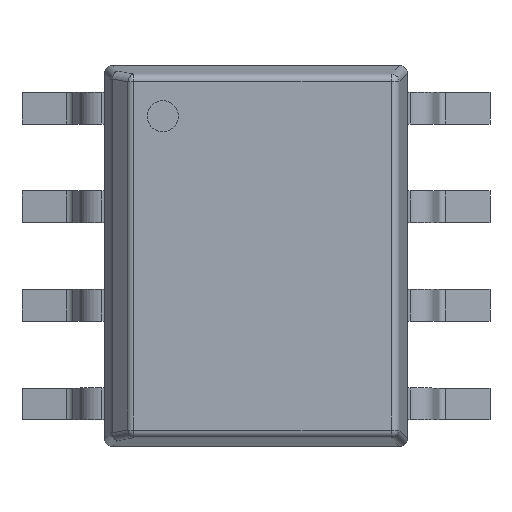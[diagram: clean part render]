
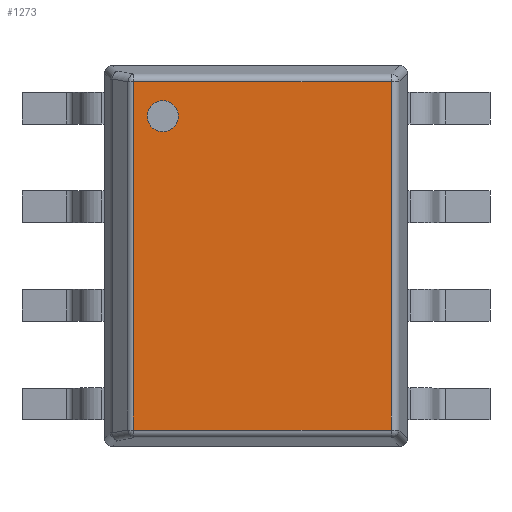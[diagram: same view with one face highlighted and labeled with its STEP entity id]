
A CAD part, top view. The second image highlights one B-rep face of the part: STEP entity #1273.
In plain terms, the highlighted planar face has unit normal (0, 0, 1) as drawn and (0, 1, 0) by its records, which use the part's own axes.
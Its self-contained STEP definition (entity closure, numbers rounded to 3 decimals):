
#60=FACE_BOUND('',#258,.T.);
#115=PLANE('',#1435);
#174=FACE_OUTER_BOUND('',#257,.T.);
#257=EDGE_LOOP('',(#982,#983,#984,#985));
#258=EDGE_LOOP('',(#986));
#351=LINE('',#2137,#458);
#352=LINE('',#2141,#459);
#353=LINE('',#2143,#460);
#354=LINE('',#2144,#461);
#458=VECTOR('',#1711,4.485);
#459=VECTOR('',#1716,3.321);
#460=VECTOR('',#1717,4.485);
#461=VECTOR('',#1718,3.321);
#528=CIRCLE('',#1368,0.2);
#576=VERTEX_POINT('',#1983);
#624=VERTEX_POINT('',#2132);
#625=VERTEX_POINT('',#2136);
#626=VERTEX_POINT('',#2140);
#627=VERTEX_POINT('',#2142);
#681=EDGE_CURVE('',#576,#576,#528,.T.);
#756=EDGE_CURVE('',#624,#625,#351,.T.);
#758=EDGE_CURVE('',#625,#626,#352,.T.);
#759=EDGE_CURVE('',#626,#627,#353,.T.);
#760=EDGE_CURVE('',#627,#624,#354,.T.);
#982=ORIENTED_EDGE('',*,*,#758,.T.);
#983=ORIENTED_EDGE('',*,*,#759,.T.);
#984=ORIENTED_EDGE('',*,*,#760,.T.);
#985=ORIENTED_EDGE('',*,*,#756,.T.);
#986=ORIENTED_EDGE('',*,*,#681,.T.);
#1273=ADVANCED_FACE('',(#174,#60),#115,.T.);
#1368=AXIS2_PLACEMENT_3D('',#1985,#1542,#1543);
#1435=AXIS2_PLACEMENT_3D('',#2139,#1714,#1715);
#1542=DIRECTION('center_axis',(0.,-1.,0.));
#1543=DIRECTION('ref_axis',(0.,0.,-1.));
#1711=DIRECTION('',(1.,0.,0.));
#1714=DIRECTION('center_axis',(0.,1.,0.));
#1715=DIRECTION('ref_axis',(1.,0.,0.));
#1716=DIRECTION('',(0.,0.,-1.));
#1717=DIRECTION('',(-1.,0.,0.));
#1718=DIRECTION('',(0.,0.,1.));
#1983=CARTESIAN_POINT('',(1.8,0.7,-1.));
#1985=CARTESIAN_POINT('Origin',(1.8,0.7,-1.2));
#2132=CARTESIAN_POINT('',(-2.243,0.7,1.743));
#2136=CARTESIAN_POINT('',(2.243,0.7,1.743));
#2137=CARTESIAN_POINT('',(-2.243,0.7,1.743));
#2139=CARTESIAN_POINT('Origin',(0.,0.7,0.));
#2140=CARTESIAN_POINT('',(2.243,0.7,-1.579));
#2141=CARTESIAN_POINT('',(2.243,0.7,1.743));
#2142=CARTESIAN_POINT('',(-2.243,0.7,-1.579));
#2143=CARTESIAN_POINT('',(2.243,0.7,-1.579));
#2144=CARTESIAN_POINT('',(-2.243,0.7,-1.579));
